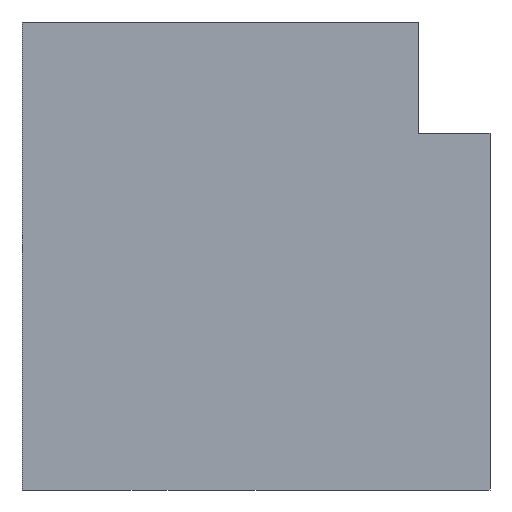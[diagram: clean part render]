
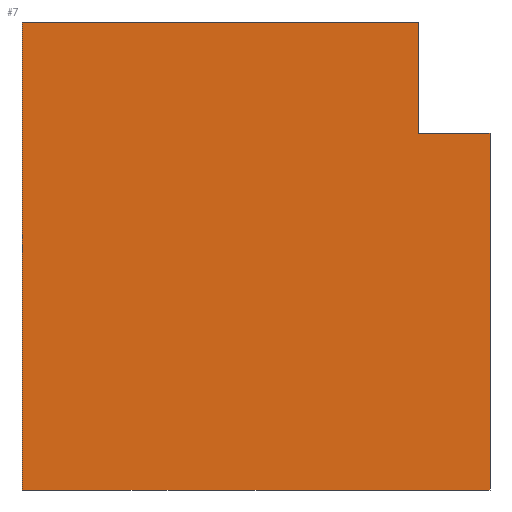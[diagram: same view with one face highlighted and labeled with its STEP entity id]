
A CAD part, left-side view. The second image highlights one B-rep face of the part: STEP entity #7.
In plain terms, the highlighted planar face has unit normal (-1, 0, 0).
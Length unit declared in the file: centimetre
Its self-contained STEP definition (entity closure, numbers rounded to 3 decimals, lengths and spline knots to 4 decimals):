
#7 = ADVANCED_FACE ( 'NONE', ( #239 ), #278, .F. ) ;
#20 = CARTESIAN_POINT ( 'NONE',  ( 0., 1000., 1000. ) ) ;
#21 = VERTEX_POINT ( 'NONE', #169 ) ;
#30 = DIRECTION ( 'NONE',  ( 0., -1., 0. ) ) ;
#51 = DIRECTION ( 'NONE',  ( 0., 0., -1. ) ) ;
#64 = DIRECTION ( 'NONE',  ( 0., 0., -1. ) ) ;
#65 = EDGE_CURVE ( 'NONE', #311, #21, #347, .T. ) ;
#76 = EDGE_CURVE ( 'NONE', #21, #109, #176, .T. ) ;
#90 = LINE ( 'NONE', #339, #150 ) ;
#101 = CARTESIAN_POINT ( 'NONE',  ( 0., 1000., 1000. ) ) ;
#102 = ORIENTED_EDGE ( 'NONE', *, *, #76, .F. ) ;
#104 = CARTESIAN_POINT ( 'NONE',  ( 0., 0., 1000. ) ) ;
#109 = VERTEX_POINT ( 'NONE', #318 ) ;
#123 = DIRECTION ( 'NONE',  ( 0., -1., 0. ) ) ;
#127 = CARTESIAN_POINT ( 'NONE',  ( 0., 1000., 1000. ) ) ;
#133 = ORIENTED_EDGE ( 'NONE', *, *, #336, .F. ) ;
#140 = DIRECTION ( 'NONE',  ( 0., 0., -1. ) ) ;
#150 = VECTOR ( 'NONE', #162, 100. ) ;
#153 = ORIENTED_EDGE ( 'NONE', *, *, #358, .T. ) ;
#157 = VECTOR ( 'NONE', #51, 100. ) ;
#162 = DIRECTION ( 'NONE',  ( 0., 0., 1. ) ) ;
#169 = CARTESIAN_POINT ( 'NONE',  ( 0., 0., 762.4742 ) ) ;
#176 = LINE ( 'NONE', #104, #304 ) ;
#177 = EDGE_LOOP ( 'NONE', ( #427, #153, #133, #353, #378, #102 ) ) ;
#196 = CARTESIAN_POINT ( 'NONE',  ( 0., 1000., 1000. ) ) ;
#200 = VECTOR ( 'NONE', #30, 100. ) ;
#206 = DIRECTION ( 'NONE',  ( 1., 0., 0. ) ) ;
#215 = VERTEX_POINT ( 'NONE', #357 ) ;
#217 = VECTOR ( 'NONE', #334, 100. ) ;
#226 = CARTESIAN_POINT ( 'NONE',  ( 0., 153.3098, 762.4742 ) ) ;
#239 = FACE_OUTER_BOUND ( 'NONE', #177, .T. ) ;
#256 = LINE ( 'NONE', #196, #285 ) ;
#264 = VERTEX_POINT ( 'NONE', #332 ) ;
#278 = PLANE ( 'NONE',  #464 ) ;
#285 = VECTOR ( 'NONE', #123, 100. ) ;
#302 = LINE ( 'NONE', #408, #217 ) ;
#303 = EDGE_CURVE ( 'NONE', #215, #109, #302, .T. ) ;
#304 = VECTOR ( 'NONE', #140, 100. ) ;
#311 = VERTEX_POINT ( 'NONE', #226 ) ;
#315 = CARTESIAN_POINT ( 'NONE',  ( 0., 153.3098, 762.4742 ) ) ;
#318 = CARTESIAN_POINT ( 'NONE',  ( 0., 0., 0. ) ) ;
#327 = VERTEX_POINT ( 'NONE', #20 ) ;
#332 = CARTESIAN_POINT ( 'NONE',  ( 0., 153.3098, 1000. ) ) ;
#334 = DIRECTION ( 'NONE',  ( 0., -1., 0. ) ) ;
#336 = EDGE_CURVE ( 'NONE', #327, #264, #256, .T. ) ;
#339 = CARTESIAN_POINT ( 'NONE',  ( 0., 153.3098, 762.4742 ) ) ;
#347 = LINE ( 'NONE', #315, #200 ) ;
#353 = ORIENTED_EDGE ( 'NONE', *, *, #397, .T. ) ;
#357 = CARTESIAN_POINT ( 'NONE',  ( 0., 1000., 0. ) ) ;
#358 = EDGE_CURVE ( 'NONE', #311, #264, #90, .T. ) ;
#378 = ORIENTED_EDGE ( 'NONE', *, *, #303, .T. ) ;
#397 = EDGE_CURVE ( 'NONE', #327, #215, #419, .T. ) ;
#408 = CARTESIAN_POINT ( 'NONE',  ( 0., 1000., 0. ) ) ;
#419 = LINE ( 'NONE', #127, #157 ) ;
#427 = ORIENTED_EDGE ( 'NONE', *, *, #65, .F. ) ;
#464 = AXIS2_PLACEMENT_3D ( 'NONE', #101, #206, #64 ) ;
